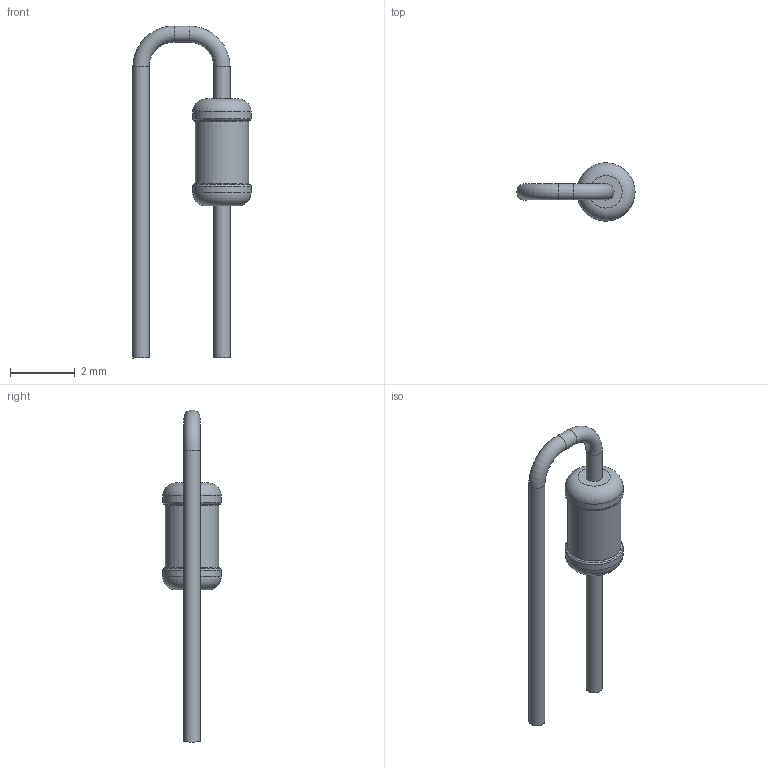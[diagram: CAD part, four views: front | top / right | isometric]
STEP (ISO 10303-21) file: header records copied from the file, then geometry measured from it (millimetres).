
FILE_DESCRIPTION(('STEP AP203'), '1');
FILE_NAME('栖闉罻', '', ('UNSPECIFIED'), ('UNSPECIFIED'), 'ASCON STEP Converter 1.6', 'ASCON Math Kernel', '');
FILE_SCHEMA(('CONFIG_CONTROL_DESIGN'));
Length unit declared in the file: millimetre
Assembly tree (1 placements, depth 2):
  (unnamed)
    (unnamed)
Bounding box: 3.65 x 1.8 x 10.25 mm (x, y, z)
Volume: 10.9 mm3; surface area: 49.9 mm2
Topology: 1 solids, 1 shells, 19 faces, 33 edges, 18 vertices
Faces by surface type: torus 8, cylinder 7, plane 4
Full cylindrical faces by diameter (mm): 0.5 x4, 1.656 x1, 1.8 x2
Entity records: 620 total; most frequent: DIRECTION 78, CARTESIAN_POINT 57, AXIS2_PLACEMENT_3D 39, EDGE_LOOP 36, ORIENTED_EDGE 36, FACE_OUTER_BOUND 30, COLOUR_RGB 20, FILL_AREA_STYLE_COLOUR 20
